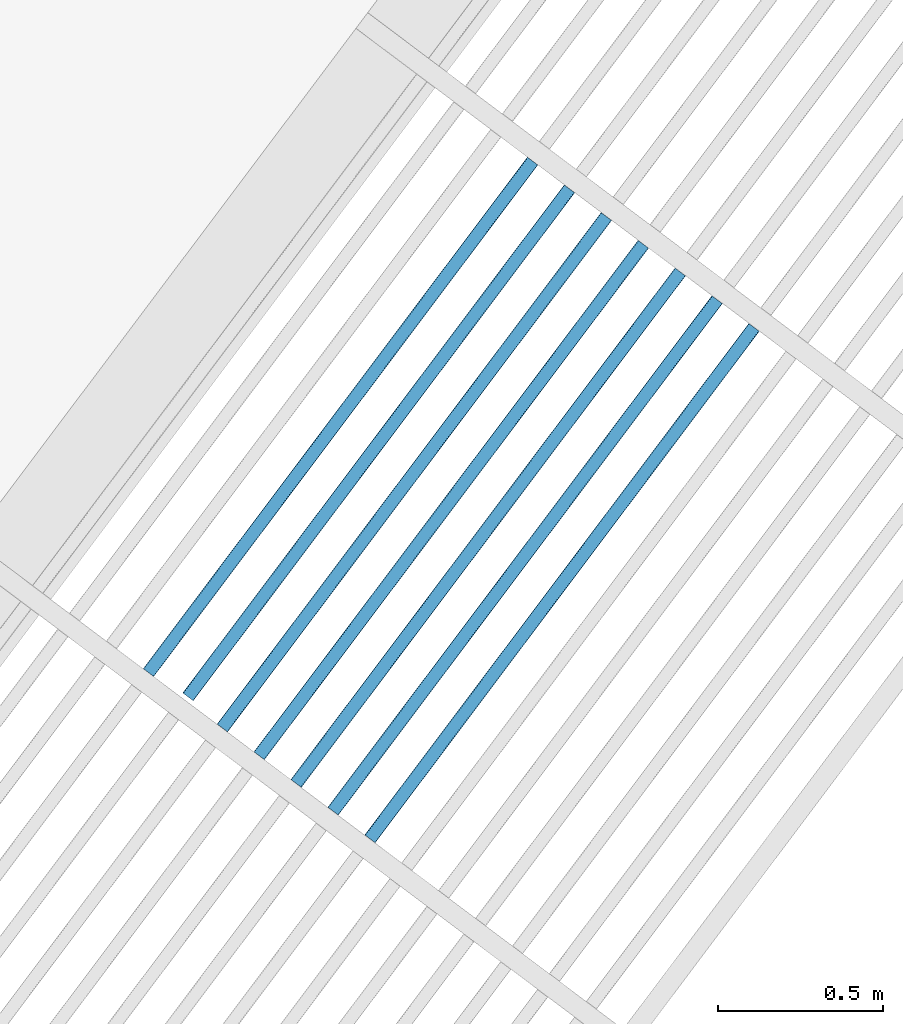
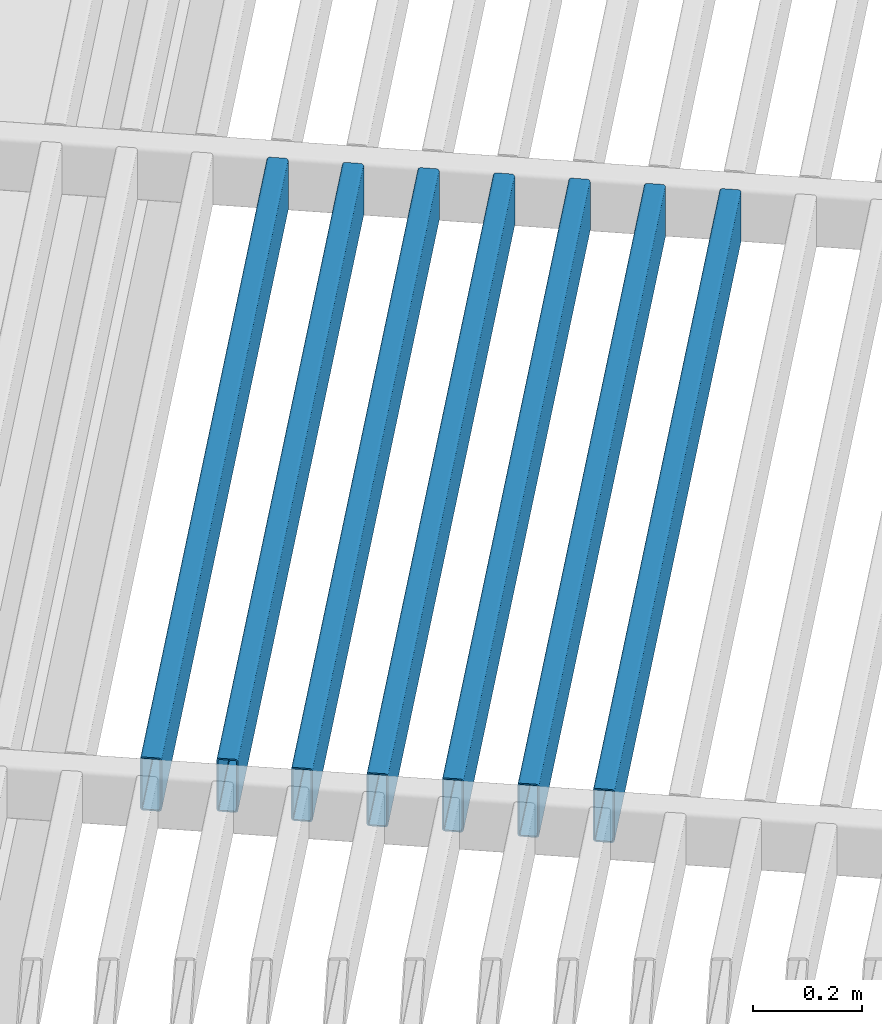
# One storey, part 46 of 95: 7 beams.
"""IFC2X3 building model written with IfcOpenShell, lengths in metres."""

from ifc_helpers import new_model, entity, si_unit, converted_unit, derived_unit, direction, frame, frame_2d, origin, place, context, subcontext, project, spatial, polyline, circle_curve, parameter, trimmed, segment, composite_curve, outline, extrude, material, type_object, element, save


model = new_model("IFC2X3")

# Units and contexts
model_context = context("Model", 3, precision=1e-05, world=origin(), true_north=direction((6.123031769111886e-17, 1.0)))
body_context = subcontext(model_context, "Body", "Model", "MODEL_VIEW")
ifc_project = project(units=[si_unit("LENGTHUNIT", "METRE"), si_unit("AREAUNIT", "SQUARE_METRE"), si_unit("VOLUMEUNIT", "CUBIC_METRE"), converted_unit("PLANEANGLEUNIT", "DEGREE", entity("IfcRatioMeasure", 0.017453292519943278), si_unit("PLANEANGLEUNIT", "RADIAN"), dimensions=[0, 0, 0, 0, 0, 0, 0]), si_unit("MASSUNIT", "GRAM", prefix="KILO"), derived_unit("MASSDENSITYUNIT", [(si_unit("MASSUNIT", "GRAM", prefix="KILO"), 1), (si_unit("LENGTHUNIT", "METRE"), -3)]), derived_unit("IONCONCENTRATIONUNIT", [(si_unit("MASSUNIT", "GRAM", prefix="KILO"), 1), (si_unit("LENGTHUNIT", "METRE"), -3)]), derived_unit("MOMENTOFINERTIAUNIT", [(si_unit("LENGTHUNIT", "METRE"), 4)]), si_unit("TIMEUNIT", "SECOND"), si_unit("FREQUENCYUNIT", "HERTZ"), si_unit("THERMODYNAMICTEMPERATUREUNIT", "DEGREE_CELSIUS"), derived_unit("THERMALTRANSMITTANCEUNIT", [(si_unit("MASSUNIT", "GRAM", prefix="KILO"), 1), (si_unit("THERMODYNAMICTEMPERATUREUNIT", "KELVIN"), -1), (si_unit("TIMEUNIT", "SECOND"), -3)]), derived_unit("THERMALCONDUCTANCEUNIT", [(si_unit("MASSUNIT", "GRAM", prefix="KILO"), 1), (si_unit("THERMODYNAMICTEMPERATUREUNIT", "KELVIN"), -1), (si_unit("TIMEUNIT", "SECOND"), -3), (si_unit("LENGTHUNIT", "METRE"), 1)]), derived_unit("VOLUMETRICFLOWRATEUNIT", [(si_unit("LENGTHUNIT", "METRE"), 3), (si_unit("TIMEUNIT", "SECOND"), -1)]), derived_unit("MASSFLOWRATEUNIT", [(si_unit("MASSUNIT", "GRAM", prefix="KILO"), 1), (si_unit("TIMEUNIT", "SECOND"), -1)]), derived_unit("ROTATIONALFREQUENCYUNIT", [(si_unit("TIMEUNIT", "SECOND"), -1)]), si_unit("ELECTRICCURRENTUNIT", "AMPERE"), si_unit("ELECTRICVOLTAGEUNIT", "VOLT"), si_unit("POWERUNIT", "WATT"), si_unit("FORCEUNIT", "NEWTON", prefix="KILO"), si_unit("ILLUMINANCEUNIT", "LUX"), si_unit("LUMINOUSFLUXUNIT", "LUMEN"), si_unit("LUMINOUSINTENSITYUNIT", "CANDELA"), derived_unit("USERDEFINED", [(si_unit("MASSUNIT", "GRAM", prefix="KILO"), -1), (si_unit("LENGTHUNIT", "METRE"), -2), (si_unit("TIMEUNIT", "SECOND"), 3), (si_unit("LUMINOUSFLUXUNIT", "LUMEN"), 1)]), derived_unit("USERDEFINED", [(si_unit("MASSUNIT", "GRAM", prefix="KILO"), 1), (si_unit("TIMEUNIT", "SECOND"), -3), (si_unit("LENGTHUNIT", "METRE"), 3), (si_unit("ELECTRICCURRENTUNIT", "AMPERE"), -2)]), derived_unit("SOUNDPOWERUNIT", [(si_unit("MASSUNIT", "GRAM", prefix="KILO"), 1), (si_unit("TIMEUNIT", "SECOND"), -3), (si_unit("LENGTHUNIT", "METRE"), 2)]), derived_unit("SOUNDPRESSUREUNIT", [(si_unit("MASSUNIT", "GRAM", prefix="KILO"), 1), (si_unit("LENGTHUNIT", "METRE"), -1), (si_unit("TIMEUNIT", "SECOND"), -2)]), derived_unit("LINEARVELOCITYUNIT", [(si_unit("LENGTHUNIT", "METRE"), 1), (si_unit("TIMEUNIT", "SECOND"), -1)]), si_unit("PRESSUREUNIT", "PASCAL"), derived_unit("USERDEFINED", [(si_unit("MASSUNIT", "GRAM", prefix="KILO"), 1), (si_unit("LENGTHUNIT", "METRE"), -2), (si_unit("TIMEUNIT", "SECOND"), -2)]), derived_unit("LINEARFORCEUNIT", [(si_unit("MASSUNIT", "GRAM", prefix="KILO"), 1), (si_unit("TIMEUNIT", "SECOND"), -2)]), derived_unit("PLANARFORCEUNIT", [(si_unit("MASSUNIT", "GRAM", prefix="KILO"), 1), (si_unit("LENGTHUNIT", "METRE"), -1), (si_unit("TIMEUNIT", "SECOND"), -2)]), derived_unit("SPECIFICHEATCAPACITYUNIT", [(si_unit("THERMODYNAMICTEMPERATUREUNIT", "KELVIN"), -1), (si_unit("LENGTHUNIT", "METRE"), 2), (si_unit("TIMEUNIT", "SECOND"), -2)]), derived_unit("HEATINGVALUEUNIT", [(si_unit("LENGTHUNIT", "METRE"), 2), (si_unit("TIMEUNIT", "SECOND"), -2)]), derived_unit("VAPORPERMEABILITYUNIT", [(si_unit("LENGTHUNIT", "METRE"), -1), (si_unit("TIMEUNIT", "SECOND"), 1)]), derived_unit("DYNAMICVISCOSITYUNIT", [(si_unit("MASSUNIT", "GRAM", prefix="KILO"), 1), (si_unit("TIMEUNIT", "SECOND"), -1), (si_unit("LENGTHUNIT", "METRE"), -1)]), derived_unit("THERMALEXPANSIONCOEFFICIENTUNIT", [(si_unit("THERMODYNAMICTEMPERATUREUNIT", "KELVIN"), -1)]), derived_unit("MODULUSOFELASTICITYUNIT", [(si_unit("MASSUNIT", "GRAM", prefix="KILO"), 1), (si_unit("LENGTHUNIT", "METRE"), -1), (si_unit("TIMEUNIT", "SECOND"), -2)]), derived_unit("ISOTHERMALMOISTURECAPACITYUNIT", [(si_unit("LENGTHUNIT", "METRE"), 3), (si_unit("MASSUNIT", "GRAM", prefix="KILO"), -1)]), derived_unit("MOISTUREDIFFUSIVITYUNIT", [(si_unit("TIMEUNIT", "SECOND"), -1), (si_unit("LENGTHUNIT", "METRE"), 2)])], contexts=[model_context])

# Site, building, storey
site_placement = place(None, origin())
site = spatial("IfcSite", under=ifc_project, at=site_placement, Name="Default", CompositionType="ELEMENT")
building_placement = place(site_placement, frame((0.0, 0.0, 235.0), z_axis=(0.0, 0.0, 1.0), x_axis=(-0.7996477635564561, 0.6004693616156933, 0.0)))
building = spatial("IfcBuilding", under=site, at=building_placement, CompositionType="ELEMENT")
storey_placement = place(building_placement, frame((0.0, 0.0, 3.400000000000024)))
storey = spatial("IfcBuildingStorey", under=building, at=storey_placement, Name="PC- Coberta STR", CompositionType="ELEMENT", Elevation=3.400000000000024)

# Beams
ifc_material = material(Name="_Acer- STR")
beam_type = type_object("IfcBeamType", Name="STR- V- Acer- RHS- Rectangular- T1:120x40RHS -", PredefinedType="NOTDEFINED")
beam_1_placement = place(storey_placement, frame((53.35355240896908, -26.385191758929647, 0.4984047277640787), z_axis=(0.0, 0.0, 1.0), x_axis=(0.0, -1.0, 0.0)))
element("IfcBeam", 1, at=beam_1_placement, inside=storey, type_object=beam_type, material=ifc_material, Name="STR- V- Acer- RHS- Rectangular- T1:120x40RHS -", ObjectType="STR- V- Acer- RHS- Rectangular- T1:120x40RHS -", context=body_context, shape_type="SweptSolid", body=[
    extrude(outline(composite_curve([segment(trimmed(circle_curve(frame_2d((-0.01400000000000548, -0.053999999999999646), x_axis=(1.0, 0.0)), 0.006), [parameter(180.0000000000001)], [parameter(269.99999999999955)], True, "PARAMETER"), True, "CONTINUOUS"), segment(polyline([(-0.01400000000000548, -0.0599999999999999), (0.013999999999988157, -0.0599999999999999)]), True, "CONTINUOUS"), segment(trimmed(circle_curve(frame_2d((0.013999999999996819, -0.053999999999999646), x_axis=(1.0, 0.0)), 0.006), [parameter(269.99999999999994)], [parameter(1.0177774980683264e-13)], True, "PARAMETER"), True, "CONTINUOUS"), segment(polyline([(0.019999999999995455, -0.053999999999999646), (0.019999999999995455, 0.05400000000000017)]), True, "CONTINUOUS"), segment(trimmed(circle_curve(frame_2d((0.013999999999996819, 0.05400000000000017), x_axis=(1.0, 0.0)), 0.006), [parameter(359.9999999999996)], [parameter(89.99999999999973)], True, "PARAMETER"), True, "CONTINUOUS"), segment(polyline([(0.013999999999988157, 0.059999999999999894), (-0.01400000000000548, 0.059999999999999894)]), True, "CONTINUOUS"), segment(trimmed(circle_curve(frame_2d((-0.01400000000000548, 0.05400000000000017), x_axis=(1.0, 0.0)), 0.006), [parameter(90.00000000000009)], [parameter(180.00000000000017)], True, "PARAMETER"), True, "CONTINUOUS"), segment(polyline([(-0.02000000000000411, 0.05400000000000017), (-0.02000000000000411, -0.05400000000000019)]), True, "CONTINUOUS")], self_intersect=False), holes=[composite_curve([segment(polyline([(0.013999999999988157, -0.05700000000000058), (-0.01400000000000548, -0.05700000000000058)]), True, "CONTINUOUS"), segment(trimmed(circle_curve(frame_2d((-0.01400000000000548, -0.05400000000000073), x_axis=(1.0, 0.0)), 0.003), [parameter(179.99999999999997)], [parameter(269.9999999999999)], True, "PARAMETER"), False, "CONTINUOUS"), segment(polyline([(-0.017000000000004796, -0.05400000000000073), (-0.017000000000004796, 0.05399999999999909)]), True, "CONTINUOUS"), segment(trimmed(circle_curve(frame_2d((-0.01400000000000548, 0.05399999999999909), x_axis=(1.0, 0.0)), 0.003), [parameter(90.00000000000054)], [parameter(180.0000000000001)], True, "PARAMETER"), False, "CONTINUOUS"), segment(polyline([(-0.01400000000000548, 0.056999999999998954), (0.013999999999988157, 0.056999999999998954)]), True, "CONTINUOUS"), segment(trimmed(circle_curve(frame_2d((0.013999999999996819, 0.05399999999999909), x_axis=(1.0, 0.0)), 0.003), [parameter(0.0)], [parameter(90.00000000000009)], True, "PARAMETER"), False, "CONTINUOUS"), segment(polyline([(0.016999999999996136, 0.05399999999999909), (0.016999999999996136, -0.05400000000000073)]), True, "CONTINUOUS"), segment(trimmed(circle_curve(frame_2d((0.013999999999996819, -0.05400000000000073), x_axis=(1.0, 0.0)), 0.003), [parameter(270.00000000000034)], [parameter(3.053332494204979e-13)], True, "PARAMETER"), False, "CONTINUOUS")], self_intersect=False)]), frame((-1.9399999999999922, 0.021595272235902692, 0.06159527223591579), z_axis=(1.0, 0.0, 0.0), x_axis=(0.0, -1.0, 0.0)), (0.0, 0.0, 1.0), 1.9399999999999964),
])
beam_2_placement = place(storey_placement, frame((53.21355240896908, -26.38519175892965, 0.4984047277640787), z_axis=(0.0, 0.0, 1.0), x_axis=(0.0, -1.0, 0.0)))
element("IfcBeam", 2, at=beam_2_placement, inside=storey, type_object=beam_type, material=ifc_material, Name="STR- V- Acer- RHS- Rectangular- T1:120x40RHS -", ObjectType="STR- V- Acer- RHS- Rectangular- T1:120x40RHS -", context=body_context, shape_type="SweptSolid", body=[
    extrude(outline(composite_curve([segment(trimmed(circle_curve(frame_2d((-0.013999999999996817, -0.053999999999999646), x_axis=(1.0, 0.0)), 0.006), [parameter(180.0000000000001)], [parameter(269.99999999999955)], True, "PARAMETER"), True, "CONTINUOUS"), segment(polyline([(-0.013999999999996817, -0.0599999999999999), (0.013999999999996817, -0.0599999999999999)]), True, "CONTINUOUS"), segment(trimmed(circle_curve(frame_2d((0.01400000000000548, -0.053999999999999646), x_axis=(1.0, 0.0)), 0.006), [parameter(269.99999999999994)], [parameter(1.0177774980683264e-13)], True, "PARAMETER"), True, "CONTINUOUS"), segment(polyline([(0.020000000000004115, -0.053999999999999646), (0.020000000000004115, 0.05400000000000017)]), True, "CONTINUOUS"), segment(trimmed(circle_curve(frame_2d((0.01400000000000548, 0.05400000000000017), x_axis=(1.0, 0.0)), 0.006), [parameter(359.9999999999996)], [parameter(89.99999999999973)], True, "PARAMETER"), True, "CONTINUOUS"), segment(polyline([(0.013999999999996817, 0.059999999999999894), (-0.013999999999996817, 0.059999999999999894)]), True, "CONTINUOUS"), segment(trimmed(circle_curve(frame_2d((-0.013999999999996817, 0.05400000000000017), x_axis=(1.0, 0.0)), 0.006), [parameter(90.00000000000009)], [parameter(180.00000000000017)], True, "PARAMETER"), True, "CONTINUOUS"), segment(polyline([(-0.019999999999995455, 0.05400000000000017), (-0.019999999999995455, -0.05400000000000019)]), True, "CONTINUOUS")], self_intersect=False), holes=[composite_curve([segment(polyline([(0.013999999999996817, -0.05700000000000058), (-0.013999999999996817, -0.05700000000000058)]), True, "CONTINUOUS"), segment(trimmed(circle_curve(frame_2d((-0.013999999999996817, -0.05400000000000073), x_axis=(1.0, 0.0)), 0.003), [parameter(179.99999999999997)], [parameter(269.9999999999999)], True, "PARAMETER"), False, "CONTINUOUS"), segment(polyline([(-0.01699999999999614, -0.05400000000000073), (-0.01699999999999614, 0.05399999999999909)]), True, "CONTINUOUS"), segment(trimmed(circle_curve(frame_2d((-0.013999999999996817, 0.05399999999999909), x_axis=(1.0, 0.0)), 0.003), [parameter(90.00000000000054)], [parameter(180.0000000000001)], True, "PARAMETER"), False, "CONTINUOUS"), segment(polyline([(-0.013999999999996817, 0.056999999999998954), (0.013999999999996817, 0.056999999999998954)]), True, "CONTINUOUS"), segment(trimmed(circle_curve(frame_2d((0.01400000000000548, 0.05399999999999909), x_axis=(1.0, 0.0)), 0.003), [parameter(0.0)], [parameter(90.00000000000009)], True, "PARAMETER"), False, "CONTINUOUS"), segment(polyline([(0.017000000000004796, 0.05399999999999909), (0.017000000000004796, -0.05400000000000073)]), True, "CONTINUOUS"), segment(trimmed(circle_curve(frame_2d((0.01400000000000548, -0.05400000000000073), x_axis=(1.0, 0.0)), 0.003), [parameter(270.00000000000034)], [parameter(3.053332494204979e-13)], True, "PARAMETER"), False, "CONTINUOUS")], self_intersect=False)]), frame((-1.9269999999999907, 0.021595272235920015, 0.06159527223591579), z_axis=(1.0, 0.0, 0.0), x_axis=(0.0, -1.0, 0.0)), (0.0, 0.0, 1.0), 1.9269999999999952),
])
beam_3_placement = place(storey_placement, frame((53.07355240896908, -26.385191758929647, 0.4984047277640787), z_axis=(0.0, 0.0, 1.0), x_axis=(0.0, -1.0, 0.0)))
element("IfcBeam", 3, at=beam_3_placement, inside=storey, type_object=beam_type, material=ifc_material, Name="STR- V- Acer- RHS- Rectangular- T1:120x40RHS -", ObjectType="STR- V- Acer- RHS- Rectangular- T1:120x40RHS -", context=body_context, shape_type="SweptSolid", body=[
    extrude(outline(composite_curve([segment(trimmed(circle_curve(frame_2d((-0.013999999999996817, -0.053999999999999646), x_axis=(1.0, 0.0)), 0.006), [parameter(180.0000000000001)], [parameter(269.99999999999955)], True, "PARAMETER"), True, "CONTINUOUS"), segment(polyline([(-0.013999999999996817, -0.0599999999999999), (0.013999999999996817, -0.0599999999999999)]), True, "CONTINUOUS"), segment(trimmed(circle_curve(frame_2d((0.01400000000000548, -0.053999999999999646), x_axis=(1.0, 0.0)), 0.006), [parameter(269.99999999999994)], [parameter(1.0177774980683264e-13)], True, "PARAMETER"), True, "CONTINUOUS"), segment(polyline([(0.020000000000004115, -0.053999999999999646), (0.020000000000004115, 0.05400000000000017)]), True, "CONTINUOUS"), segment(trimmed(circle_curve(frame_2d((0.01400000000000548, 0.05400000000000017), x_axis=(1.0, 0.0)), 0.006), [parameter(359.9999999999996)], [parameter(89.99999999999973)], True, "PARAMETER"), True, "CONTINUOUS"), segment(polyline([(0.013999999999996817, 0.059999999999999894), (-0.013999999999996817, 0.059999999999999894)]), True, "CONTINUOUS"), segment(trimmed(circle_curve(frame_2d((-0.013999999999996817, 0.05400000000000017), x_axis=(1.0, 0.0)), 0.006), [parameter(90.00000000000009)], [parameter(180.00000000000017)], True, "PARAMETER"), True, "CONTINUOUS"), segment(polyline([(-0.019999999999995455, 0.05400000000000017), (-0.019999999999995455, -0.05400000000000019)]), True, "CONTINUOUS")], self_intersect=False), holes=[composite_curve([segment(polyline([(0.013999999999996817, -0.05700000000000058), (-0.013999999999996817, -0.05700000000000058)]), True, "CONTINUOUS"), segment(trimmed(circle_curve(frame_2d((-0.013999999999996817, -0.05400000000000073), x_axis=(1.0, 0.0)), 0.003), [parameter(179.99999999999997)], [parameter(269.9999999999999)], True, "PARAMETER"), False, "CONTINUOUS"), segment(polyline([(-0.01699999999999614, -0.05400000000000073), (-0.01699999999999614, 0.05399999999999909)]), True, "CONTINUOUS"), segment(trimmed(circle_curve(frame_2d((-0.013999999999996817, 0.05399999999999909), x_axis=(1.0, 0.0)), 0.003), [parameter(90.00000000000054)], [parameter(180.0000000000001)], True, "PARAMETER"), False, "CONTINUOUS"), segment(polyline([(-0.013999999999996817, 0.056999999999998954), (0.013999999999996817, 0.056999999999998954)]), True, "CONTINUOUS"), segment(trimmed(circle_curve(frame_2d((0.01400000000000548, 0.05399999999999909), x_axis=(1.0, 0.0)), 0.003), [parameter(0.0)], [parameter(90.00000000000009)], True, "PARAMETER"), False, "CONTINUOUS"), segment(polyline([(0.017000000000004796, 0.05399999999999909), (0.017000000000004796, -0.05400000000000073)]), True, "CONTINUOUS"), segment(trimmed(circle_curve(frame_2d((0.01400000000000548, -0.05400000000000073), x_axis=(1.0, 0.0)), 0.003), [parameter(270.00000000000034)], [parameter(3.053332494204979e-13)], True, "PARAMETER"), False, "CONTINUOUS")], self_intersect=False)]), frame((-1.9399999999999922, 0.021595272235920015, 0.06159527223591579), z_axis=(1.0, 0.0, 0.0), x_axis=(0.0, -1.0, 0.0)), (0.0, 0.0, 1.0), 1.9399999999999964),
])
beam_4_placement = place(storey_placement, frame((52.93355240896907, -26.385191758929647, 0.4984047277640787), z_axis=(0.0, 0.0, 1.0), x_axis=(0.0, -1.0, 0.0)))
element("IfcBeam", 4, at=beam_4_placement, inside=storey, type_object=beam_type, material=ifc_material, Name="STR- V- Acer- RHS- Rectangular- T1:120x40RHS -", ObjectType="STR- V- Acer- RHS- Rectangular- T1:120x40RHS -", context=body_context, shape_type="SweptSolid", body=[
    extrude(outline(composite_curve([segment(trimmed(circle_curve(frame_2d((-0.013999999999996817, -0.053999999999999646), x_axis=(1.0, 0.0)), 0.006), [parameter(180.0000000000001)], [parameter(269.99999999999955)], True, "PARAMETER"), True, "CONTINUOUS"), segment(polyline([(-0.013999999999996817, -0.0599999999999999), (0.013999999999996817, -0.0599999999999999)]), True, "CONTINUOUS"), segment(trimmed(circle_curve(frame_2d((0.01400000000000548, -0.053999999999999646), x_axis=(1.0, 0.0)), 0.006), [parameter(269.99999999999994)], [parameter(1.0177774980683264e-13)], True, "PARAMETER"), True, "CONTINUOUS"), segment(polyline([(0.020000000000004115, -0.053999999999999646), (0.020000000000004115, 0.05400000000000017)]), True, "CONTINUOUS"), segment(trimmed(circle_curve(frame_2d((0.01400000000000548, 0.05400000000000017), x_axis=(1.0, 0.0)), 0.006), [parameter(359.9999999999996)], [parameter(89.99999999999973)], True, "PARAMETER"), True, "CONTINUOUS"), segment(polyline([(0.013999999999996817, 0.059999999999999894), (-0.013999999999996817, 0.059999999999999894)]), True, "CONTINUOUS"), segment(trimmed(circle_curve(frame_2d((-0.013999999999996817, 0.05400000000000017), x_axis=(1.0, 0.0)), 0.006), [parameter(90.00000000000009)], [parameter(180.00000000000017)], True, "PARAMETER"), True, "CONTINUOUS"), segment(polyline([(-0.019999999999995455, 0.05400000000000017), (-0.019999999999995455, -0.05400000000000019)]), True, "CONTINUOUS")], self_intersect=False), holes=[composite_curve([segment(polyline([(0.013999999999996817, -0.05700000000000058), (-0.013999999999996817, -0.05700000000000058)]), True, "CONTINUOUS"), segment(trimmed(circle_curve(frame_2d((-0.013999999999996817, -0.05400000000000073), x_axis=(1.0, 0.0)), 0.003), [parameter(179.99999999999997)], [parameter(269.9999999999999)], True, "PARAMETER"), False, "CONTINUOUS"), segment(polyline([(-0.01699999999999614, -0.05400000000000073), (-0.01699999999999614, 0.05399999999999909)]), True, "CONTINUOUS"), segment(trimmed(circle_curve(frame_2d((-0.013999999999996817, 0.05399999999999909), x_axis=(1.0, 0.0)), 0.003), [parameter(90.00000000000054)], [parameter(180.0000000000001)], True, "PARAMETER"), False, "CONTINUOUS"), segment(polyline([(-0.013999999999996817, 0.056999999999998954), (0.013999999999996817, 0.056999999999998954)]), True, "CONTINUOUS"), segment(trimmed(circle_curve(frame_2d((0.01400000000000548, 0.05399999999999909), x_axis=(1.0, 0.0)), 0.003), [parameter(0.0)], [parameter(90.00000000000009)], True, "PARAMETER"), False, "CONTINUOUS"), segment(polyline([(0.017000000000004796, 0.05399999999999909), (0.017000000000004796, -0.05400000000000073)]), True, "CONTINUOUS"), segment(trimmed(circle_curve(frame_2d((0.01400000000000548, -0.05400000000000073), x_axis=(1.0, 0.0)), 0.003), [parameter(270.00000000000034)], [parameter(3.053332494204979e-13)], True, "PARAMETER"), False, "CONTINUOUS")], self_intersect=False)]), frame((-1.9399999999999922, 0.021595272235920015, 0.06159527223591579), z_axis=(1.0, 0.0, 0.0), x_axis=(0.0, -1.0, 0.0)), (0.0, 0.0, 1.0), 1.9399999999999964),
])
beam_5_placement = place(storey_placement, frame((52.793552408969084, -26.385191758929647, 0.4984047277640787), z_axis=(0.0, 0.0, 1.0), x_axis=(0.0, -1.0, 0.0)))
element("IfcBeam", 5, at=beam_5_placement, inside=storey, type_object=beam_type, material=ifc_material, Name="STR- V- Acer- RHS- Rectangular- T1:120x40RHS -", ObjectType="STR- V- Acer- RHS- Rectangular- T1:120x40RHS -", context=body_context, shape_type="SweptSolid", body=[
    extrude(outline(composite_curve([segment(trimmed(circle_curve(frame_2d((-0.01400000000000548, -0.053999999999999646), x_axis=(1.0, 0.0)), 0.006), [parameter(180.0000000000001)], [parameter(269.99999999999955)], True, "PARAMETER"), True, "CONTINUOUS"), segment(polyline([(-0.01400000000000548, -0.0599999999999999), (0.013999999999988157, -0.0599999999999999)]), True, "CONTINUOUS"), segment(trimmed(circle_curve(frame_2d((0.013999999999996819, -0.053999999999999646), x_axis=(1.0, 0.0)), 0.006), [parameter(269.99999999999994)], [parameter(1.0177774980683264e-13)], True, "PARAMETER"), True, "CONTINUOUS"), segment(polyline([(0.019999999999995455, -0.053999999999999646), (0.019999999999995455, 0.05400000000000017)]), True, "CONTINUOUS"), segment(trimmed(circle_curve(frame_2d((0.013999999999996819, 0.05400000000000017), x_axis=(1.0, 0.0)), 0.006), [parameter(359.9999999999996)], [parameter(89.99999999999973)], True, "PARAMETER"), True, "CONTINUOUS"), segment(polyline([(0.013999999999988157, 0.059999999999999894), (-0.01400000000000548, 0.059999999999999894)]), True, "CONTINUOUS"), segment(trimmed(circle_curve(frame_2d((-0.01400000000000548, 0.05400000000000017), x_axis=(1.0, 0.0)), 0.006), [parameter(90.00000000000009)], [parameter(180.00000000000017)], True, "PARAMETER"), True, "CONTINUOUS"), segment(polyline([(-0.02000000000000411, 0.05400000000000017), (-0.02000000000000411, -0.05400000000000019)]), True, "CONTINUOUS")], self_intersect=False), holes=[composite_curve([segment(polyline([(0.013999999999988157, -0.05700000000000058), (-0.01400000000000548, -0.05700000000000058)]), True, "CONTINUOUS"), segment(trimmed(circle_curve(frame_2d((-0.01400000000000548, -0.05400000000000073), x_axis=(1.0, 0.0)), 0.003), [parameter(179.99999999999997)], [parameter(269.9999999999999)], True, "PARAMETER"), False, "CONTINUOUS"), segment(polyline([(-0.017000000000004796, -0.05400000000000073), (-0.017000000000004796, 0.05399999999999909)]), True, "CONTINUOUS"), segment(trimmed(circle_curve(frame_2d((-0.01400000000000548, 0.05399999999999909), x_axis=(1.0, 0.0)), 0.003), [parameter(90.00000000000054)], [parameter(180.0000000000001)], True, "PARAMETER"), False, "CONTINUOUS"), segment(polyline([(-0.01400000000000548, 0.056999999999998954), (0.013999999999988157, 0.056999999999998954)]), True, "CONTINUOUS"), segment(trimmed(circle_curve(frame_2d((0.013999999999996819, 0.05399999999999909), x_axis=(1.0, 0.0)), 0.003), [parameter(0.0)], [parameter(90.00000000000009)], True, "PARAMETER"), False, "CONTINUOUS"), segment(polyline([(0.016999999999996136, 0.05399999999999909), (0.016999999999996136, -0.05400000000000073)]), True, "CONTINUOUS"), segment(trimmed(circle_curve(frame_2d((0.013999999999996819, -0.05400000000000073), x_axis=(1.0, 0.0)), 0.003), [parameter(270.00000000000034)], [parameter(3.053332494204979e-13)], True, "PARAMETER"), False, "CONTINUOUS")], self_intersect=False)]), frame((-1.9399999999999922, 0.021595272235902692, 0.06159527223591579), z_axis=(1.0, 0.0, 0.0), x_axis=(0.0, -1.0, 0.0)), (0.0, 0.0, 1.0), 1.9399999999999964),
])
beam_6_placement = place(storey_placement, frame((52.653552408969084, -26.385191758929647, 0.4984047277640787), z_axis=(0.0, 0.0, 1.0), x_axis=(0.0, -1.0, 0.0)))
element("IfcBeam", 6, at=beam_6_placement, inside=storey, type_object=beam_type, material=ifc_material, Name="STR- V- Acer- RHS- Rectangular- T1:120x40RHS -", ObjectType="STR- V- Acer- RHS- Rectangular- T1:120x40RHS -", context=body_context, shape_type="SweptSolid", body=[
    extrude(outline(composite_curve([segment(trimmed(circle_curve(frame_2d((-0.01400000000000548, -0.053999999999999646), x_axis=(1.0, 0.0)), 0.006), [parameter(180.0000000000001)], [parameter(269.99999999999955)], True, "PARAMETER"), True, "CONTINUOUS"), segment(polyline([(-0.01400000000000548, -0.0599999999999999), (0.013999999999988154, -0.0599999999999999)]), True, "CONTINUOUS"), segment(trimmed(circle_curve(frame_2d((0.013999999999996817, -0.053999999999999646), x_axis=(1.0, 0.0)), 0.006), [parameter(269.99999999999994)], [parameter(1.0177774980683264e-13)], True, "PARAMETER"), True, "CONTINUOUS"), segment(polyline([(0.019999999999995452, -0.053999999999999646), (0.019999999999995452, 0.05400000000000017)]), True, "CONTINUOUS"), segment(trimmed(circle_curve(frame_2d((0.013999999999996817, 0.05400000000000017), x_axis=(1.0, 0.0)), 0.006), [parameter(359.9999999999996)], [parameter(89.99999999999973)], True, "PARAMETER"), True, "CONTINUOUS"), segment(polyline([(0.013999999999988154, 0.059999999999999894), (-0.01400000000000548, 0.059999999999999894)]), True, "CONTINUOUS"), segment(trimmed(circle_curve(frame_2d((-0.01400000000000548, 0.05400000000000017), x_axis=(1.0, 0.0)), 0.006), [parameter(90.00000000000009)], [parameter(180.00000000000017)], True, "PARAMETER"), True, "CONTINUOUS"), segment(polyline([(-0.02000000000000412, 0.05400000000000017), (-0.02000000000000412, -0.05400000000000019)]), True, "CONTINUOUS")], self_intersect=False), holes=[composite_curve([segment(polyline([(0.013999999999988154, -0.05700000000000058), (-0.01400000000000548, -0.05700000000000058)]), True, "CONTINUOUS"), segment(trimmed(circle_curve(frame_2d((-0.01400000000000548, -0.05400000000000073), x_axis=(1.0, 0.0)), 0.003), [parameter(179.99999999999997)], [parameter(269.9999999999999)], True, "PARAMETER"), False, "CONTINUOUS"), segment(polyline([(-0.017000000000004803, -0.05400000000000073), (-0.017000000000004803, 0.05399999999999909)]), True, "CONTINUOUS"), segment(trimmed(circle_curve(frame_2d((-0.01400000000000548, 0.05399999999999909), x_axis=(1.0, 0.0)), 0.003), [parameter(90.00000000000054)], [parameter(180.0000000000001)], True, "PARAMETER"), False, "CONTINUOUS"), segment(polyline([(-0.01400000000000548, 0.056999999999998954), (0.013999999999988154, 0.056999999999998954)]), True, "CONTINUOUS"), segment(trimmed(circle_curve(frame_2d((0.013999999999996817, 0.05399999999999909), x_axis=(1.0, 0.0)), 0.003), [parameter(0.0)], [parameter(90.00000000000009)], True, "PARAMETER"), False, "CONTINUOUS"), segment(polyline([(0.016999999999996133, 0.05399999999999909), (0.016999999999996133, -0.05400000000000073)]), True, "CONTINUOUS"), segment(trimmed(circle_curve(frame_2d((0.013999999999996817, -0.05400000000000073), x_axis=(1.0, 0.0)), 0.003), [parameter(270.00000000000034)], [parameter(3.053332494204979e-13)], True, "PARAMETER"), False, "CONTINUOUS")], self_intersect=False)]), frame((-1.9399999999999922, 0.02159527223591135, 0.06159527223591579), z_axis=(1.0, 0.0, 0.0), x_axis=(0.0, -1.0, 0.0)), (0.0, 0.0, 1.0), 1.9399999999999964),
])
beam_7_placement = place(storey_placement, frame((52.51355240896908, -26.385191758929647, 0.4984047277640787), z_axis=(0.0, 0.0, 1.0), x_axis=(0.0, -1.0, 0.0)))
element("IfcBeam", 7, at=beam_7_placement, inside=storey, type_object=beam_type, material=ifc_material, Name="STR- V- Acer- RHS- Rectangular- T1:120x40RHS -", ObjectType="STR- V- Acer- RHS- Rectangular- T1:120x40RHS -", context=body_context, shape_type="SweptSolid", body=[
    extrude(outline(composite_curve([segment(trimmed(circle_curve(frame_2d((-0.01400000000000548, -0.053999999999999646), x_axis=(1.0, 0.0)), 0.006), [parameter(180.0000000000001)], [parameter(269.99999999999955)], True, "PARAMETER"), True, "CONTINUOUS"), segment(polyline([(-0.01400000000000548, -0.0599999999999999), (0.013999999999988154, -0.0599999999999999)]), True, "CONTINUOUS"), segment(trimmed(circle_curve(frame_2d((0.013999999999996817, -0.053999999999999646), x_axis=(1.0, 0.0)), 0.006), [parameter(269.99999999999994)], [parameter(1.0177774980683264e-13)], True, "PARAMETER"), True, "CONTINUOUS"), segment(polyline([(0.019999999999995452, -0.053999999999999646), (0.019999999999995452, 0.05400000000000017)]), True, "CONTINUOUS"), segment(trimmed(circle_curve(frame_2d((0.013999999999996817, 0.05400000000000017), x_axis=(1.0, 0.0)), 0.006), [parameter(359.9999999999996)], [parameter(89.99999999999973)], True, "PARAMETER"), True, "CONTINUOUS"), segment(polyline([(0.013999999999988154, 0.059999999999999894), (-0.01400000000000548, 0.059999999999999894)]), True, "CONTINUOUS"), segment(trimmed(circle_curve(frame_2d((-0.01400000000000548, 0.05400000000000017), x_axis=(1.0, 0.0)), 0.006), [parameter(90.00000000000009)], [parameter(180.00000000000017)], True, "PARAMETER"), True, "CONTINUOUS"), segment(polyline([(-0.02000000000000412, 0.05400000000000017), (-0.02000000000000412, -0.05400000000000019)]), True, "CONTINUOUS")], self_intersect=False), holes=[composite_curve([segment(polyline([(0.013999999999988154, -0.05700000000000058), (-0.01400000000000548, -0.05700000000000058)]), True, "CONTINUOUS"), segment(trimmed(circle_curve(frame_2d((-0.01400000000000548, -0.05400000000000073), x_axis=(1.0, 0.0)), 0.003), [parameter(179.99999999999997)], [parameter(269.9999999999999)], True, "PARAMETER"), False, "CONTINUOUS"), segment(polyline([(-0.017000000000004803, -0.05400000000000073), (-0.017000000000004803, 0.05399999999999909)]), True, "CONTINUOUS"), segment(trimmed(circle_curve(frame_2d((-0.01400000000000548, 0.05399999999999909), x_axis=(1.0, 0.0)), 0.003), [parameter(90.00000000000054)], [parameter(180.0000000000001)], True, "PARAMETER"), False, "CONTINUOUS"), segment(polyline([(-0.01400000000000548, 0.056999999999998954), (0.013999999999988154, 0.056999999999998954)]), True, "CONTINUOUS"), segment(trimmed(circle_curve(frame_2d((0.013999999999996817, 0.05399999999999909), x_axis=(1.0, 0.0)), 0.003), [parameter(0.0)], [parameter(90.00000000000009)], True, "PARAMETER"), False, "CONTINUOUS"), segment(polyline([(0.016999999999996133, 0.05399999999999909), (0.016999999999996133, -0.05400000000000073)]), True, "CONTINUOUS"), segment(trimmed(circle_curve(frame_2d((0.013999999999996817, -0.05400000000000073), x_axis=(1.0, 0.0)), 0.003), [parameter(270.00000000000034)], [parameter(3.053332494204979e-13)], True, "PARAMETER"), False, "CONTINUOUS")], self_intersect=False)]), frame((-1.9399999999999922, 0.02159527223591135, 0.06159527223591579), z_axis=(1.0, 0.0, 0.0), x_axis=(0.0, -1.0, 0.0)), (0.0, 0.0, 1.0), 1.9399999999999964),
])

save(model, "model.ifc")
